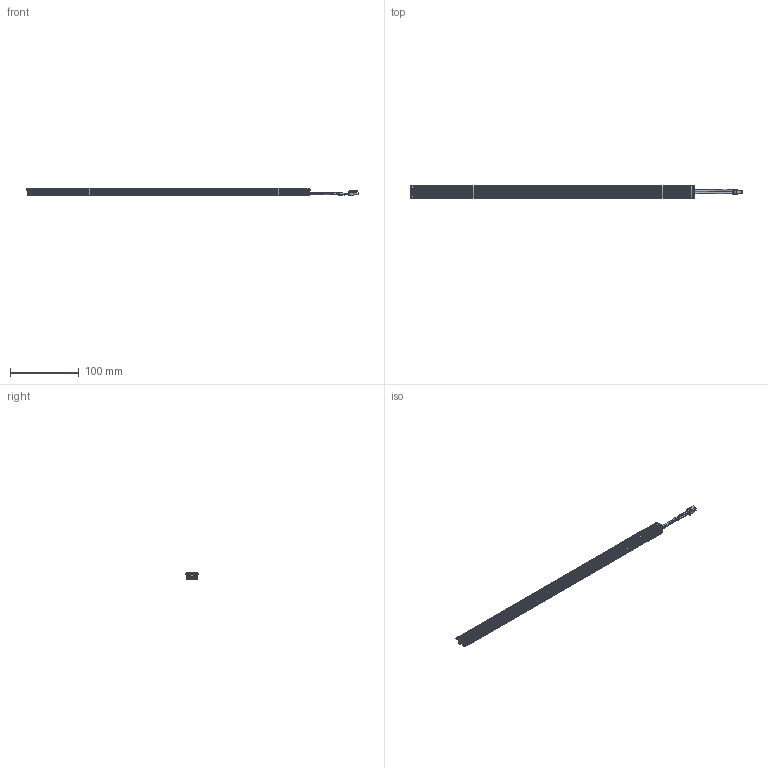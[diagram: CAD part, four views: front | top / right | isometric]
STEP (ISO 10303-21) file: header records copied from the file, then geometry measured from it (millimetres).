
FILE_DESCRIPTION (( 'STEP AP214' ), '1' );
FILE_NAME ('BernaCompleto.STEP', '2022-02-17T14:03:10', ( '' ), ( '' ), 'SwSTEP 2.0', 'SolidWorks 2021', '' );
FILE_SCHEMA (( 'AUTOMOTIVE_DESIGN' ));
Length unit declared in the file: millimetre
Products named in the file (1): BernaCompleto
Bounding box: 483.51 x 18.2 x 10.48 mm (x, y, z)
Surface area: 52333.8 mm2 (no closed solid volume)
Topology: 0 solids, 8 shells, 15100 faces, 27954 edges, 12863 vertices
Faces by surface type: plane 15070, bspline 17, cylinder 10, sphere 3
Entity records: 538171 total; most frequent: CARTESIAN_POINT 137813, ORIENTED_EDGE 55487, DIRECTION 32319, EDGE_CURVE 27950, B_SPLINE_CURVE_WITH_KNOTS 25811, EDGE_LOOP 15110, UNCERTAINTY_MEASURE_WITH_UNIT 15105, AXIS2_PLACEMENT_3D 15104
